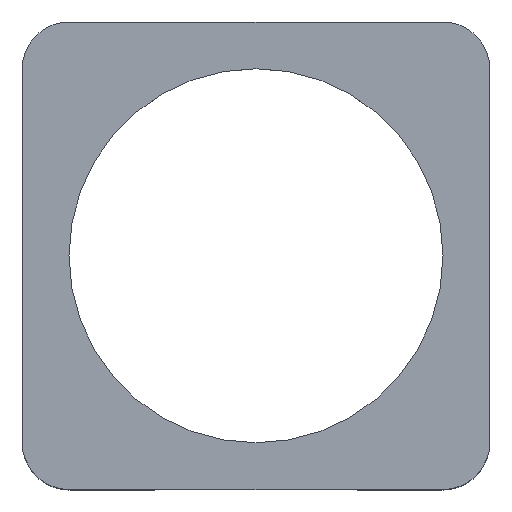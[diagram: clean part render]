
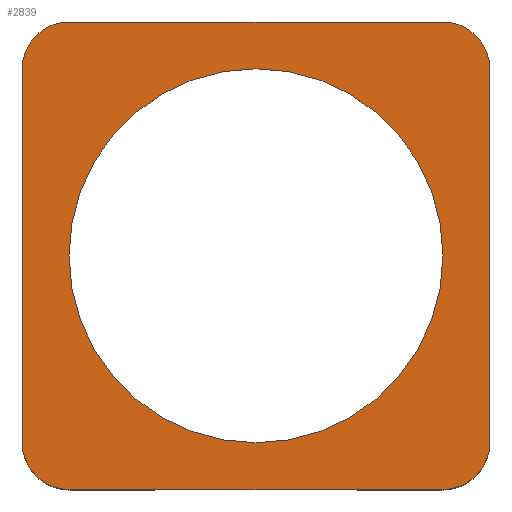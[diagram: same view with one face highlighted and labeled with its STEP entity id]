
A CAD part, top view. The second image highlights one B-rep face of the part: STEP entity #2839.
In plain terms, the highlighted planar face has unit normal (0, 0, 1).
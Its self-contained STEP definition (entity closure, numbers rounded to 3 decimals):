
#1369 = VERTEX_POINT('',#1370);
#1370 = CARTESIAN_POINT('',(3.,0.,25.));
#1376 = EDGE_CURVE('',#1369,#1377,#1379,.T.);
#1377 = VERTEX_POINT('',#1378);
#1378 = CARTESIAN_POINT('',(27.,0.,25.));
#1379 = LINE('',#1380,#1381);
#1380 = CARTESIAN_POINT('',(3.,0.,25.));
#1381 = VECTOR('',#1382,1.);
#1382 = DIRECTION('',(1.,0.,0.));
#2395 = VERTEX_POINT('',#2396);
#2396 = CARTESIAN_POINT('',(0.,3.,25.));
#2402 = EDGE_CURVE('',#2395,#1369,#2403,.T.);
#2403 = CIRCLE('',#2404,3.);
#2404 = AXIS2_PLACEMENT_3D('',#2405,#2406,#2407);
#2405 = CARTESIAN_POINT('',(3.,3.,25.));
#2406 = DIRECTION('',(0.,0.,1.));
#2407 = DIRECTION('',(1.,0.,0.));
#2704 = VERTEX_POINT('',#2705);
#2705 = CARTESIAN_POINT('',(30.,3.,25.));
#2713 = EDGE_CURVE('',#1377,#2704,#2714,.T.);
#2714 = CIRCLE('',#2715,3.);
#2715 = AXIS2_PLACEMENT_3D('',#2716,#2717,#2718);
#2716 = CARTESIAN_POINT('',(27.,3.,25.));
#2717 = DIRECTION('',(0.,0.,1.));
#2718 = DIRECTION('',(1.,0.,0.));
#2731 = VERTEX_POINT('',#2732);
#2732 = CARTESIAN_POINT('',(30.,27.,25.));
#2738 = EDGE_CURVE('',#2704,#2731,#2739,.T.);
#2739 = LINE('',#2740,#2741);
#2740 = CARTESIAN_POINT('',(30.,3.,25.));
#2741 = VECTOR('',#2742,1.);
#2742 = DIRECTION('',(0.,1.,0.));
#2754 = EDGE_CURVE('',#2731,#2755,#2757,.T.);
#2755 = VERTEX_POINT('',#2756);
#2756 = CARTESIAN_POINT('',(27.,30.,25.));
#2757 = CIRCLE('',#2758,3.);
#2758 = AXIS2_PLACEMENT_3D('',#2759,#2760,#2761);
#2759 = CARTESIAN_POINT('',(27.,27.,25.));
#2760 = DIRECTION('',(0.,0.,1.));
#2761 = DIRECTION('',(1.,0.,0.));
#2779 = VERTEX_POINT('',#2780);
#2780 = CARTESIAN_POINT('',(3.,30.,25.));
#2786 = EDGE_CURVE('',#2779,#2755,#2787,.T.);
#2787 = LINE('',#2788,#2789);
#2788 = CARTESIAN_POINT('',(3.,30.,25.));
#2789 = VECTOR('',#2790,1.);
#2790 = DIRECTION('',(1.,0.,0.));
#2803 = EDGE_CURVE('',#2779,#2804,#2806,.T.);
#2804 = VERTEX_POINT('',#2805);
#2805 = CARTESIAN_POINT('',(0.,27.,25.));
#2806 = CIRCLE('',#2807,3.);
#2807 = AXIS2_PLACEMENT_3D('',#2808,#2809,#2810);
#2808 = CARTESIAN_POINT('',(3.,27.,25.));
#2809 = DIRECTION('',(0.,0.,1.));
#2810 = DIRECTION('',(1.,0.,0.));
#2829 = EDGE_CURVE('',#2395,#2804,#2830,.T.);
#2830 = LINE('',#2831,#2832);
#2831 = CARTESIAN_POINT('',(0.,3.,25.));
#2832 = VECTOR('',#2833,1.);
#2833 = DIRECTION('',(0.,1.,0.));
#2839 = ADVANCED_FACE('',(#2840,#2850),#2861,.T.);
#2840 = FACE_BOUND('',#2841,.T.);
#2841 = EDGE_LOOP('',(#2842,#2843,#2844,#2845,#2846,#2847,#2848,#2849));
#2842 = ORIENTED_EDGE('',*,*,#2402,.T.);
#2843 = ORIENTED_EDGE('',*,*,#1376,.T.);
#2844 = ORIENTED_EDGE('',*,*,#2713,.T.);
#2845 = ORIENTED_EDGE('',*,*,#2738,.T.);
#2846 = ORIENTED_EDGE('',*,*,#2754,.T.);
#2847 = ORIENTED_EDGE('',*,*,#2786,.F.);
#2848 = ORIENTED_EDGE('',*,*,#2803,.T.);
#2849 = ORIENTED_EDGE('',*,*,#2829,.F.);
#2850 = FACE_BOUND('',#2851,.T.);
#2851 = EDGE_LOOP('',(#2852));
#2852 = ORIENTED_EDGE('',*,*,#2853,.T.);
#2853 = EDGE_CURVE('',#2854,#2854,#2856,.T.);
#2854 = VERTEX_POINT('',#2855);
#2855 = CARTESIAN_POINT('',(27.,15.,25.));
#2856 = CIRCLE('',#2857,12.);
#2857 = AXIS2_PLACEMENT_3D('',#2858,#2859,#2860);
#2858 = CARTESIAN_POINT('',(15.,15.,25.));
#2859 = DIRECTION('',(0.,0.,-1.));
#2860 = DIRECTION('',(1.,0.,0.));
#2861 = PLANE('',#2862);
#2862 = AXIS2_PLACEMENT_3D('',#2863,#2864,#2865);
#2863 = CARTESIAN_POINT('',(15.,15.,25.));
#2864 = DIRECTION('',(0.,0.,1.));
#2865 = DIRECTION('',(1.,0.,0.));
